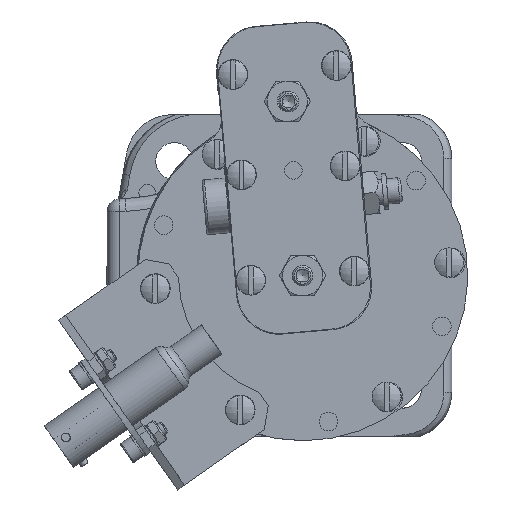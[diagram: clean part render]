
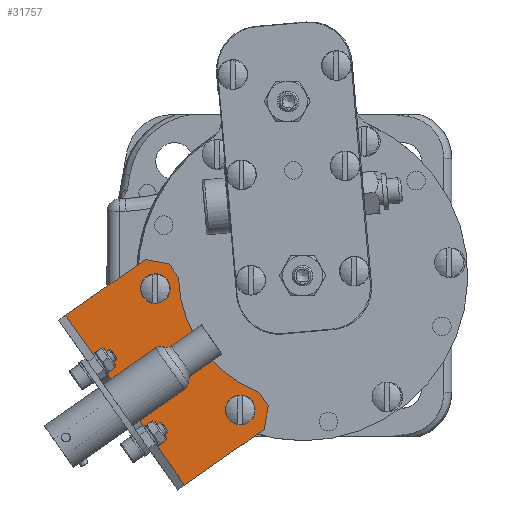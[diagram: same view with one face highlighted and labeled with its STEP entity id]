
A CAD part, left-side view. The second image highlights one B-rep face of the part: STEP entity #31757.
In plain terms, the highlighted planar face has unit normal (-1, 0, 0) as drawn and (1, 0, 0) by its records, which use the part's own axes.
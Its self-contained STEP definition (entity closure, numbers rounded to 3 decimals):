
#2020=FACE_BOUND('',#6394,.T.);
#2021=FACE_BOUND('',#6395,.T.);
#4447=FACE_OUTER_BOUND('',#6393,.T.);
#6393=EDGE_LOOP('',(#29109,#29110,#29111,#29112,#29113,#29114,#29115,#29116));
#6394=EDGE_LOOP('',(#29117));
#6395=EDGE_LOOP('',(#29118));
#8702=CIRCLE('',#36549,2.25);
#8704=CIRCLE('',#36552,2.25);
#8709=CIRCLE('',#36562,30.);
#10271=LINE('',#71656,#11868);
#10273=LINE('',#71660,#11870);
#10276=LINE('',#71666,#11873);
#10277=LINE('',#71668,#11874);
#10278=LINE('',#71670,#11875);
#10279=LINE('',#71672,#11876);
#10280=LINE('',#71674,#11877);
#11868=VECTOR('',#45998,10.);
#11870=VECTOR('',#46002,10.);
#11873=VECTOR('',#46007,10.);
#11874=VECTOR('',#46008,10.);
#11875=VECTOR('',#46009,10.);
#11876=VECTOR('',#46010,10.);
#11877=VECTOR('',#46011,10.);
#15048=VERTEX_POINT('',#71628);
#15050=VERTEX_POINT('',#71634);
#15057=VERTEX_POINT('',#71653);
#15058=VERTEX_POINT('',#71655);
#15059=VERTEX_POINT('',#71659);
#15061=VERTEX_POINT('',#71665);
#15062=VERTEX_POINT('',#71667);
#15063=VERTEX_POINT('',#71669);
#15064=VERTEX_POINT('',#71671);
#15065=VERTEX_POINT('',#71673);
#19768=EDGE_CURVE('',#15048,#15048,#8702,.T.);
#19771=EDGE_CURVE('',#15050,#15050,#8704,.T.);
#19780=EDGE_CURVE('',#15057,#15058,#10271,.T.);
#19782=EDGE_CURVE('',#15059,#15058,#10273,.T.);
#19785=EDGE_CURVE('',#15061,#15057,#10276,.T.);
#19786=EDGE_CURVE('',#15062,#15061,#10277,.T.);
#19787=EDGE_CURVE('',#15063,#15062,#10278,.T.);
#19788=EDGE_CURVE('',#15064,#15063,#10279,.T.);
#19789=EDGE_CURVE('',#15064,#15065,#10280,.T.);
#19790=EDGE_CURVE('',#15065,#15059,#8709,.T.);
#29109=ORIENTED_EDGE('',*,*,#19780,.F.);
#29110=ORIENTED_EDGE('',*,*,#19785,.F.);
#29111=ORIENTED_EDGE('',*,*,#19786,.F.);
#29112=ORIENTED_EDGE('',*,*,#19787,.F.);
#29113=ORIENTED_EDGE('',*,*,#19788,.F.);
#29114=ORIENTED_EDGE('',*,*,#19789,.T.);
#29115=ORIENTED_EDGE('',*,*,#19790,.T.);
#29116=ORIENTED_EDGE('',*,*,#19782,.T.);
#29117=ORIENTED_EDGE('',*,*,#19768,.T.);
#29118=ORIENTED_EDGE('',*,*,#19771,.T.);
#30106=PLANE('',#36561);
#31757=ADVANCED_FACE('',(#4447,#2020,#2021),#30106,.T.);
#36549=AXIS2_PLACEMENT_3D('',#71630,#45971,#45972);
#36552=AXIS2_PLACEMENT_3D('',#71636,#45978,#45979);
#36561=AXIS2_PLACEMENT_3D('',#71664,#46005,#46006);
#36562=AXIS2_PLACEMENT_3D('',#71675,#46012,#46013);
#45971=DIRECTION('center_axis',(-1.,0.,0.));
#45972=DIRECTION('ref_axis',(0.,0.,-1.));
#45978=DIRECTION('center_axis',(-1.,0.,0.));
#45979=DIRECTION('ref_axis',(0.,0.,-1.));
#45998=DIRECTION('',(0.,0.707,-0.707));
#46002=DIRECTION('',(0.,0.,1.));
#46005=DIRECTION('center_axis',(1.,0.,0.));
#46006=DIRECTION('ref_axis',(0.,1.,0.));
#46007=DIRECTION('',(0.,1.,0.));
#46008=DIRECTION('',(0.,0.,1.));
#46009=DIRECTION('',(0.,-1.,0.));
#46010=DIRECTION('',(0.,-0.707,-0.707));
#46011=DIRECTION('',(0.,0.,1.));
#46012=DIRECTION('center_axis',(-1.,0.,0.));
#46013=DIRECTION('ref_axis',(0.,0.,1.));
#71628=CARTESIAN_POINT('',(2.,23.,-15.25));
#71630=CARTESIAN_POINT('Origin',(2.,23.,-17.5));
#71634=CARTESIAN_POINT('',(2.,23.,19.75));
#71636=CARTESIAN_POINT('Origin',(2.,23.,17.5));
#71653=CARTESIAN_POINT('',(2.,25.,24.5));
#71655=CARTESIAN_POINT('',(2.,29.,20.5));
#71656=CARTESIAN_POINT('',(2.,26.375,23.125));
#71659=CARTESIAN_POINT('',(2.,29.,16.583));
#71660=CARTESIAN_POINT('',(2.,29.,0.));
#71664=CARTESIAN_POINT('Origin',(2.,2.,0.));
#71665=CARTESIAN_POINT('',(2.,2.,24.5));
#71666=CARTESIAN_POINT('',(2.,2.,24.5));
#71667=CARTESIAN_POINT('',(2.,2.,-24.5));
#71668=CARTESIAN_POINT('',(2.,2.,0.));
#71669=CARTESIAN_POINT('',(2.,25.,-24.5));
#71670=CARTESIAN_POINT('',(2.,2.,-24.5));
#71671=CARTESIAN_POINT('',(2.,29.,-20.5));
#71672=CARTESIAN_POINT('',(2.,26.375,-23.125));
#71673=CARTESIAN_POINT('',(2.,29.,-16.583));
#71674=CARTESIAN_POINT('',(2.,29.,0.));
#71675=CARTESIAN_POINT('Origin',(2.,54.,0.));
